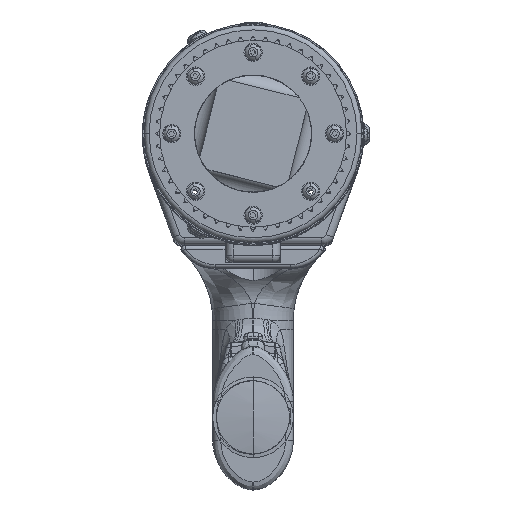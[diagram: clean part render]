
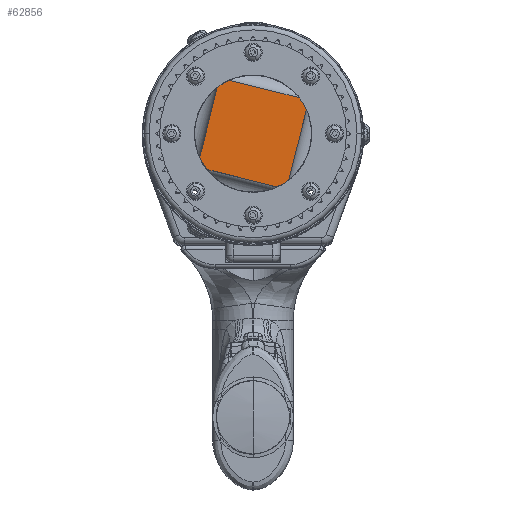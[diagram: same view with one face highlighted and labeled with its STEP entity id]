
A CAD part, top view. The second image highlights one B-rep face of the part: STEP entity #62856.
In plain terms, the highlighted planar face has unit normal (0, 0, 1).
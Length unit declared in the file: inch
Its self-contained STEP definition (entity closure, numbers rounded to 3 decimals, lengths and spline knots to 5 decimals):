
#408 = VECTOR ( 'NONE', #69666, 39.37008 ) ;
#2689 = CARTESIAN_POINT ( 'NONE',  ( 0.86748, 0.38726, 2.89 ) ) ;
#2871 = VECTOR ( 'NONE', #44349, 39.37008 ) ;
#3209 = AXIS2_PLACEMENT_3D ( 'NONE', #83608, #22473, #83113 ) ;
#5082 = VERTEX_POINT ( 'NONE', #34132 ) ;
#10035 = CIRCLE ( 'NONE', #63810, 0.95 ) ;
#10897 = EDGE_CURVE ( 'NONE', #81501, #51496, #39915, .T. ) ;
#13059 = DIRECTION ( 'NONE',  ( 0., 0., -1. ) ) ;
#13178 = AXIS2_PLACEMENT_3D ( 'NONE', #25115, #17686, #18625 ) ;
#13633 = DIRECTION ( 'NONE',  ( -0.97, 0.243, 0. ) ) ;
#13696 = CARTESIAN_POINT ( 'NONE',  ( 0.72513, -0.18149, 2.89 ) ) ;
#15418 = DIRECTION ( 'NONE',  ( -0.243, -0.97, 0. ) ) ;
#16757 = LINE ( 'NONE', #56280, #408 ) ;
#17686 = DIRECTION ( 'NONE',  ( 0., 0., -1. ) ) ;
#18625 = DIRECTION ( 'NONE',  ( -0.243, -0.97, 0. ) ) ;
#20430 = EDGE_CURVE ( 'NONE', #72400, #77489, #58253, .T. ) ;
#22473 = DIRECTION ( 'NONE',  ( 0., 0., -1. ) ) ;
#23790 = CARTESIAN_POINT ( 'NONE',  ( -0.72513, 0.18149, 2.89 ) ) ;
#24925 = CARTESIAN_POINT ( 'NONE',  ( -0.75024, -0.58278, 2.89 ) ) ;
#25087 = AXIS2_PLACEMENT_3D ( 'NONE', #52380, #82393, #76469 ) ;
#25115 = CARTESIAN_POINT ( 'NONE',  ( 0., 0., 2.89 ) ) ;
#25363 = CIRCLE ( 'NONE', #3209, 0.95 ) ;
#26015 = EDGE_CURVE ( 'NONE', #72400, #76242, #10035, .T. ) ;
#28965 = LINE ( 'NONE', #35880, #45610 ) ;
#30561 = FACE_OUTER_BOUND ( 'NONE', #58261, .T. ) ;
#34058 = CARTESIAN_POINT ( 'NONE',  ( 0.38726, -0.86748, 2.89 ) ) ;
#34132 = CARTESIAN_POINT ( 'NONE',  ( 0.75024, 0.58278, 2.89 ) ) ;
#34771 = VECTOR ( 'NONE', #76141, 39.37008 ) ;
#35643 = CARTESIAN_POINT ( 'NONE',  ( -0.86748, -0.38726, 2.89 ) ) ;
#35880 = CARTESIAN_POINT ( 'NONE',  ( 0.18149, 0.72513, 2.89 ) ) ;
#36312 = ORIENTED_EDGE ( 'NONE', *, *, #26015, .F. ) ;
#38114 = LINE ( 'NONE', #23790, #34771 ) ;
#38996 = ORIENTED_EDGE ( 'NONE', *, *, #42896, .F. ) ;
#39860 = VERTEX_POINT ( 'NONE', #24925 ) ;
#39915 = CIRCLE ( 'NONE', #58993, 0.95 ) ;
#42896 = EDGE_CURVE ( 'NONE', #39860, #79942, #63706, .T. ) ;
#43666 = CARTESIAN_POINT ( 'NONE',  ( 0., 0., 2.89 ) ) ;
#43667 = ORIENTED_EDGE ( 'NONE', *, *, #67212, .T. ) ;
#44349 = DIRECTION ( 'NONE',  ( 0.243, 0.97, 0. ) ) ;
#45610 = VECTOR ( 'NONE', #13633, 39.37008 ) ;
#45709 = ORIENTED_EDGE ( 'NONE', *, *, #61298, .T. ) ;
#46829 = EDGE_CURVE ( 'NONE', #39860, #76242, #16757, .T. ) ;
#49478 = ORIENTED_EDGE ( 'NONE', *, *, #46829, .T. ) ;
#50268 = EDGE_CURVE ( 'NONE', #5082, #77489, #25363, .T. ) ;
#51496 = VERTEX_POINT ( 'NONE', #77404 ) ;
#52380 = CARTESIAN_POINT ( 'NONE',  ( 0., 0., 2.89 ) ) ;
#52907 = CARTESIAN_POINT ( 'NONE',  ( -0.58278, 0.75024, 2.89 ) ) ;
#56280 = CARTESIAN_POINT ( 'NONE',  ( -0.18149, -0.72513, 2.89 ) ) ;
#58253 = LINE ( 'NONE', #13696, #2871 ) ;
#58261 = EDGE_LOOP ( 'NONE', ( #49478, #36312, #61075, #61903, #45709, #85162, #43667, #38996 ) ) ;
#58993 = AXIS2_PLACEMENT_3D ( 'NONE', #60929, #96812, #15418 ) ;
#60929 = CARTESIAN_POINT ( 'NONE',  ( 0., 0., 2.89 ) ) ;
#61075 = ORIENTED_EDGE ( 'NONE', *, *, #20430, .T. ) ;
#61298 = EDGE_CURVE ( 'NONE', #5082, #51496, #28965, .T. ) ;
#61903 = ORIENTED_EDGE ( 'NONE', *, *, #50268, .F. ) ;
#62856 = ADVANCED_FACE ( 'NONE', ( #30561 ), #90774, .F. ) ;
#63706 = CIRCLE ( 'NONE', #13178, 0.95 ) ;
#63810 = AXIS2_PLACEMENT_3D ( 'NONE', #43666, #13059, #66486 ) ;
#66486 = DIRECTION ( 'NONE',  ( -0.243, -0.97, 0. ) ) ;
#66610 = CARTESIAN_POINT ( 'NONE',  ( 0.58278, -0.75024, 2.89 ) ) ;
#67212 = EDGE_CURVE ( 'NONE', #81501, #79942, #38114, .T. ) ;
#69666 = DIRECTION ( 'NONE',  ( 0.97, -0.243, 0. ) ) ;
#72400 = VERTEX_POINT ( 'NONE', #66610 ) ;
#76141 = DIRECTION ( 'NONE',  ( -0.243, -0.97, 0. ) ) ;
#76242 = VERTEX_POINT ( 'NONE', #34058 ) ;
#76469 = DIRECTION ( 'NONE',  ( -0.243, -0.97, 0. ) ) ;
#77404 = CARTESIAN_POINT ( 'NONE',  ( -0.38726, 0.86748, 2.89 ) ) ;
#77489 = VERTEX_POINT ( 'NONE', #2689 ) ;
#79942 = VERTEX_POINT ( 'NONE', #35643 ) ;
#81501 = VERTEX_POINT ( 'NONE', #52907 ) ;
#82393 = DIRECTION ( 'NONE',  ( 0., 0., -1. ) ) ;
#83113 = DIRECTION ( 'NONE',  ( -0.243, -0.97, 0. ) ) ;
#83608 = CARTESIAN_POINT ( 'NONE',  ( 0., 0., 2.89 ) ) ;
#85162 = ORIENTED_EDGE ( 'NONE', *, *, #10897, .F. ) ;
#90774 = PLANE ( 'NONE',  #25087 ) ;
#96812 = DIRECTION ( 'NONE',  ( 0., 0., -1. ) ) ;
